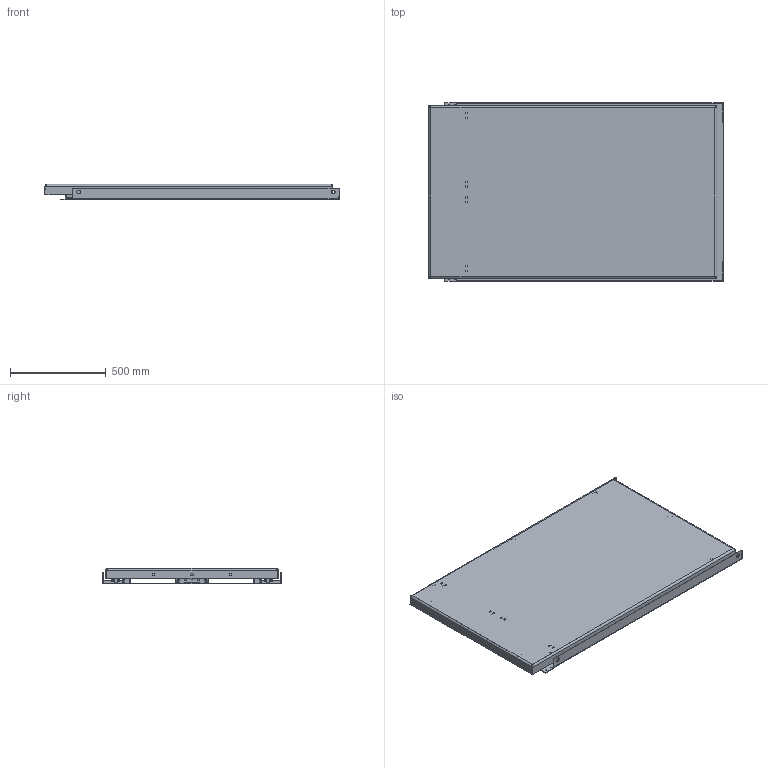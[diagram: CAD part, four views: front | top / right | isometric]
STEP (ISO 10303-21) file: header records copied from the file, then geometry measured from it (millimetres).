
FILE_DESCRIPTION(/* description */ ('TCB 600H (1500x900)'),/* implementation_level */ '2;1');
FILE_NAME(/* name */ '\\EDMOFILE01\Users$\JOHSO\Desktop\33638_Closed-Height.stp',/* time_stamp */ '2017-02-20T10:47:12+01:00',/* author */ ('johso'),/* organization */ (''),/* preprocessor_version */ 'ST-DEVELOPER v16.5',/* originating_system */ 'Autodesk Inventor 2017',/* authorisation */ '');
FILE_SCHEMA (('AUTOMOTIVE_DESIGN { 1 0 10303 214 3 1 1 }'));
Length unit declared in the file: millimetre
Products named in the file (25): 33638.tmp; 33247; 35887; 42974; 43469C; 33253C; 33253C-1; 42949C; 517432; 33252C; 82170-1245; 517434; 517433; 43342C; 43948C; 517441; 517435; 517435-1; 42947; 33246C; 514470; 33248-4; 45087; 84207; 44572
Assembly tree (47 placements, depth 4):
  33638.tmp
    33247
      35887
      42974  x4
      43469C  x2
    33253C  x2
      33253C-1
      42949C
    517432
      33252C  x2
        82170-1245
      517434  x2
      517433
      43342C  x2
      43948C
    517441
      517435
        517435-1
        42947  x2
    33246C
      514470
      33248-4  x8
      84207  x4
      44572  x3
      45087  x2
Bounding box: 1532.89 x 930 x 80 mm (x, y, z)
Volume: 19116185.5 mm3; surface area: 8110848 mm2
Topology: 42 solids, 42 shells, 1031 faces, 2690 edges, 1750 vertices
Faces by surface type: plane 550, cylinder 421, bspline 32, cone 28
Full cylindrical faces by diameter (mm): 4.7 x4, 6 x4, 7.4 x1, 8.88 x4, 9.4 x4, 10 x12, 10.1 x2, 10.5 x14, 12.5 x6, 14 x4, 20 x10, 20.1 x2, 26 x4, 30 x2, 34.1 x2, 35 x3, 45 x4, 50.1 x2
Entity records: 21037 total; most frequent: CARTESIAN_POINT 4856, DIRECTION 3262, ORIENTED_EDGE 3146, EDGE_CURVE 1573, AXIS2_PLACEMENT_3D 1131, VERTEX_POINT 1057, LINE 1000, VECTOR 1000
